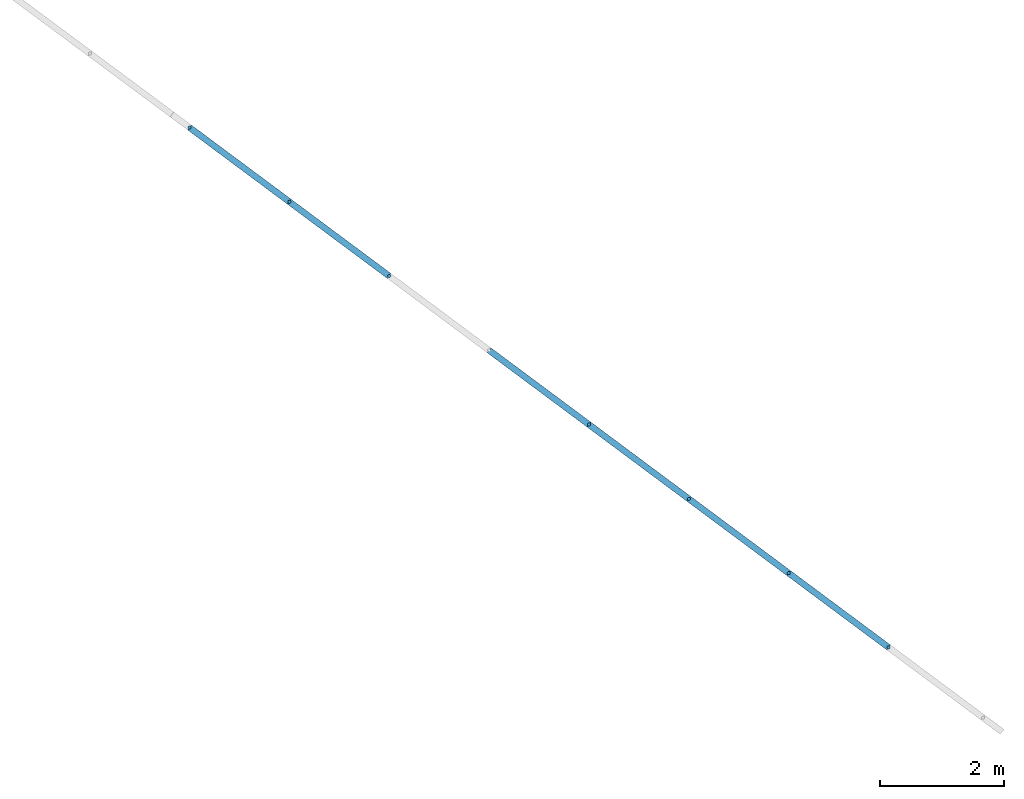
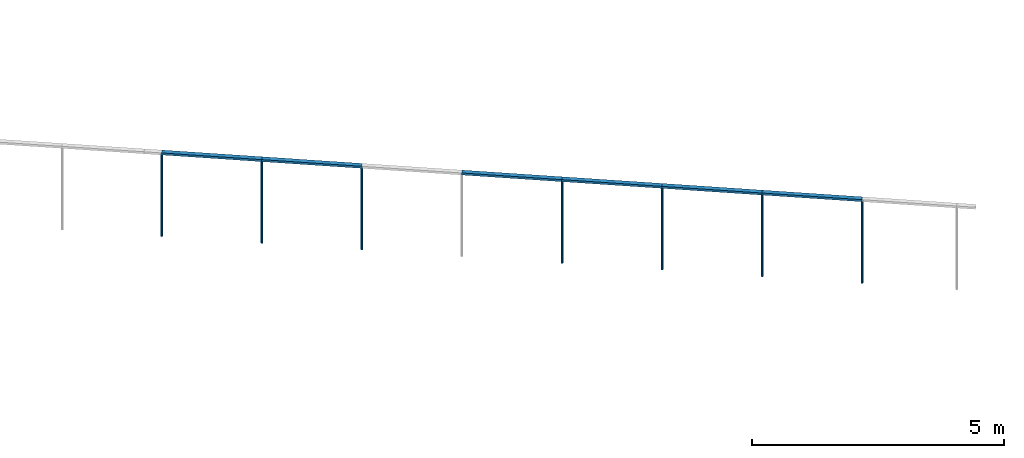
# One storey, part 2 of 12: 13 members, 1 element without a shape of its own.
"""IFC2X3 building model written with IfcOpenShell, lengths in metres."""

from ifc_helpers import new_model, entity, si_unit, converted_unit, derived_unit, direction, frame, frame_2d, origin, origin_2d_with_axis, place, context, subcontext, project, spatial, rectangle, circle, extrude, source, transform, mapped, material, type_object, type_shapes, element, aggregate, save


model = new_model("IFC2X3")

# Units and contexts
model_context = context("Model", 3, precision=1e-05, world=origin(), true_north=direction((6.123031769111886e-17, 1.0)))
body_context = subcontext(model_context, "Body", "Model", "MODEL_VIEW")
ifc_project = project(units=[si_unit("LENGTHUNIT", "METRE"), si_unit("AREAUNIT", "SQUARE_METRE"), si_unit("VOLUMEUNIT", "CUBIC_METRE"), converted_unit("PLANEANGLEUNIT", "DEGREE", entity("IfcRatioMeasure", 0.017453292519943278), si_unit("PLANEANGLEUNIT", "RADIAN"), dimensions=[0, 0, 0, 0, 0, 0, 0]), si_unit("MASSUNIT", "GRAM", prefix="KILO"), derived_unit("MASSDENSITYUNIT", [(si_unit("MASSUNIT", "GRAM", prefix="KILO"), 1), (si_unit("LENGTHUNIT", "METRE"), -3)]), derived_unit("IONCONCENTRATIONUNIT", [(si_unit("MASSUNIT", "GRAM", prefix="KILO"), 1), (si_unit("LENGTHUNIT", "METRE"), -3)]), derived_unit("MOMENTOFINERTIAUNIT", [(si_unit("LENGTHUNIT", "METRE"), 4)]), si_unit("TIMEUNIT", "SECOND"), si_unit("FREQUENCYUNIT", "HERTZ"), si_unit("THERMODYNAMICTEMPERATUREUNIT", "DEGREE_CELSIUS"), derived_unit("THERMALTRANSMITTANCEUNIT", [(si_unit("MASSUNIT", "GRAM", prefix="KILO"), 1), (si_unit("THERMODYNAMICTEMPERATUREUNIT", "KELVIN"), -1), (si_unit("TIMEUNIT", "SECOND"), -3)]), derived_unit("THERMALCONDUCTANCEUNIT", [(si_unit("MASSUNIT", "GRAM", prefix="KILO"), 1), (si_unit("THERMODYNAMICTEMPERATUREUNIT", "KELVIN"), -1), (si_unit("TIMEUNIT", "SECOND"), -3), (si_unit("LENGTHUNIT", "METRE"), 1)]), derived_unit("VOLUMETRICFLOWRATEUNIT", [(si_unit("LENGTHUNIT", "METRE"), 3), (si_unit("TIMEUNIT", "SECOND"), -1)]), derived_unit("MASSFLOWRATEUNIT", [(si_unit("MASSUNIT", "GRAM", prefix="KILO"), 1), (si_unit("TIMEUNIT", "SECOND"), -1)]), derived_unit("ROTATIONALFREQUENCYUNIT", [(si_unit("TIMEUNIT", "SECOND"), -1)]), si_unit("ELECTRICCURRENTUNIT", "AMPERE"), si_unit("ELECTRICVOLTAGEUNIT", "VOLT"), si_unit("POWERUNIT", "WATT"), si_unit("FORCEUNIT", "NEWTON", prefix="KILO"), si_unit("ILLUMINANCEUNIT", "LUX"), si_unit("LUMINOUSFLUXUNIT", "LUMEN"), si_unit("LUMINOUSINTENSITYUNIT", "CANDELA"), derived_unit("USERDEFINED", [(si_unit("MASSUNIT", "GRAM", prefix="KILO"), -1), (si_unit("LENGTHUNIT", "METRE"), -2), (si_unit("TIMEUNIT", "SECOND"), 3), (si_unit("LUMINOUSFLUXUNIT", "LUMEN"), 1)]), derived_unit("USERDEFINED", [(si_unit("MASSUNIT", "GRAM", prefix="KILO"), 1), (si_unit("TIMEUNIT", "SECOND"), -3), (si_unit("LENGTHUNIT", "METRE"), 3), (si_unit("ELECTRICCURRENTUNIT", "AMPERE"), -2)]), derived_unit("SOUNDPOWERUNIT", [(si_unit("MASSUNIT", "GRAM", prefix="KILO"), 1), (si_unit("TIMEUNIT", "SECOND"), -3), (si_unit("LENGTHUNIT", "METRE"), 2)]), derived_unit("SOUNDPRESSUREUNIT", [(si_unit("MASSUNIT", "GRAM", prefix="KILO"), 1), (si_unit("LENGTHUNIT", "METRE"), -1), (si_unit("TIMEUNIT", "SECOND"), -2)]), derived_unit("LINEARVELOCITYUNIT", [(si_unit("LENGTHUNIT", "METRE"), 1), (si_unit("TIMEUNIT", "SECOND"), -1)]), si_unit("PRESSUREUNIT", "PASCAL"), derived_unit("USERDEFINED", [(si_unit("MASSUNIT", "GRAM", prefix="KILO"), 1), (si_unit("LENGTHUNIT", "METRE"), -2), (si_unit("TIMEUNIT", "SECOND"), -2)]), derived_unit("LINEARFORCEUNIT", [(si_unit("MASSUNIT", "GRAM", prefix="KILO"), 1), (si_unit("TIMEUNIT", "SECOND"), -2)]), derived_unit("PLANARFORCEUNIT", [(si_unit("MASSUNIT", "GRAM", prefix="KILO"), 1), (si_unit("LENGTHUNIT", "METRE"), -1), (si_unit("TIMEUNIT", "SECOND"), -2)]), derived_unit("SPECIFICHEATCAPACITYUNIT", [(si_unit("THERMODYNAMICTEMPERATUREUNIT", "KELVIN"), -1), (si_unit("LENGTHUNIT", "METRE"), 2), (si_unit("TIMEUNIT", "SECOND"), -2)]), derived_unit("HEATINGVALUEUNIT", [(si_unit("LENGTHUNIT", "METRE"), 2), (si_unit("TIMEUNIT", "SECOND"), -2)]), derived_unit("VAPORPERMEABILITYUNIT", [(si_unit("LENGTHUNIT", "METRE"), -1), (si_unit("TIMEUNIT", "SECOND"), 1)]), derived_unit("DYNAMICVISCOSITYUNIT", [(si_unit("MASSUNIT", "GRAM", prefix="KILO"), 1), (si_unit("TIMEUNIT", "SECOND"), -1), (si_unit("LENGTHUNIT", "METRE"), -1)]), derived_unit("THERMALEXPANSIONCOEFFICIENTUNIT", [(si_unit("THERMODYNAMICTEMPERATUREUNIT", "KELVIN"), -1)]), derived_unit("MODULUSOFELASTICITYUNIT", [(si_unit("MASSUNIT", "GRAM", prefix="KILO"), 1), (si_unit("LENGTHUNIT", "METRE"), -1), (si_unit("TIMEUNIT", "SECOND"), -2)]), derived_unit("ISOTHERMALMOISTURECAPACITYUNIT", [(si_unit("LENGTHUNIT", "METRE"), 3), (si_unit("MASSUNIT", "GRAM", prefix="KILO"), -1)]), derived_unit("MOISTUREDIFFUSIVITYUNIT", [(si_unit("TIMEUNIT", "SECOND"), -1), (si_unit("LENGTHUNIT", "METRE"), 2)])], contexts=[model_context])

# Site, building, storey
site_placement = place(None, origin())
site = spatial("IfcSite", under=ifc_project, at=site_placement, Name="Superficie", CompositionType="ELEMENT")
building_placement = place(site_placement, frame((0.0, 0.0, 235.0), z_axis=(0.0, 0.0, 1.0), x_axis=(-0.7996477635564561, 0.6004693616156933, 0.0)))
building = spatial("IfcBuilding", under=site, at=building_placement, CompositionType="ELEMENT")
storey_placement = place(building_placement, frame((0.0, 0.0, -4.459999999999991)))
storey = spatial("IfcBuildingStorey", under=building, at=storey_placement, Name="PS1- Vestuari", CompositionType="ELEMENT", Elevation=-4.459999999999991)

# Curtain wall, members
curtain_wall_type = type_object("IfcCurtainWallType", Name="Muro cortina:SER EXT- Tanca exterior", PredefinedType="NOTDEFINED")
curtain_wall_placement = place(storey_placement, frame((0.0, 0.0, 4.459999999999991)))
curtain_wall = element("IfcCurtainWall", 1, at=curtain_wall_placement, inside=storey, type_object=curtain_wall_type, Name="Muro cortina:SER EXT- Tanca exterior", ObjectType="Muro cortina:SER EXT- Tanca exterior")
ifc_material_1 = material(Name="Acero inoxidable")
member_type_1 = type_object("IfcMemberType", Name="Montante circular:Perfil Tanca exterior", PredefinedType="MULLION", material=ifc_material_1)
shared_shape_1 = source(origin(), body_context, "Body", "SweptSolid", [
    extrude(circle(Radius=0.025, at=frame_2d((-2.1149748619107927e-18, -4.0388614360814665e-17), x_axis=(1.0, 0.0))), frame((0.0, 0.0, -2.0), z_axis=(0.0, 0.0, 1.0), x_axis=(-1.0, 0.0, 0.0)), (0.0, 0.0, 1.0), 1.9999999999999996),
])
type_shapes(member_type_1, [shared_shape_1])
member_1_placement = place(curtain_wall_placement, frame((23.910364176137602, -66.6421102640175, -5.509999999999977), z_axis=(0.0, 0.0, -1.0), x_axis=(-0.9999891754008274, -0.004652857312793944, 0.0)))
member_1 = element("IfcMember", 2, at=member_1_placement, type_object=member_type_1, material=ifc_material_1, Name="Montante circular:Perfil Tanca exterior", ObjectType="Montante circular:Perfil Tanca exterior", context=body_context, shape_type="MappedRepresentation", body=[
    mapped(shared_shape_1, transform((0.0, 0.0, 0.0), scale=1.0)),
])
member_2_placement = place(curtain_wall_placement, frame((21.910385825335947, -66.65141597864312, -5.509999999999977), z_axis=(0.0, 0.0, -1.0), x_axis=(-0.9999891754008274, -0.004652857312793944, 0.0)))
member_2 = element("IfcMember", 3, at=member_2_placement, type_object=member_type_1, material=ifc_material_1, Name="Montante circular:Perfil Tanca exterior", ObjectType="Montante circular:Perfil Tanca exterior", context=body_context, shape_type="MappedRepresentation", body=[
    mapped(shared_shape_1, transform((0.0, 0.0, 0.0), scale=1.0)),
])
member_3_placement = place(curtain_wall_placement, frame((19.910407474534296, -66.66072169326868, -5.509999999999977), z_axis=(0.0, 0.0, -1.0), x_axis=(-0.9999891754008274, -0.004652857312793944, 0.0)))
member_3 = element("IfcMember", 4, at=member_3_placement, type_object=member_type_1, material=ifc_material_1, Name="Montante circular:Perfil Tanca exterior", ObjectType="Montante circular:Perfil Tanca exterior", context=body_context, shape_type="MappedRepresentation", body=[
    mapped(shared_shape_1, transform((0.0, 0.0, 0.0), scale=1.0)),
])
member_4_placement = place(curtain_wall_placement, frame((15.91045077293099, -66.67933312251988, -5.509999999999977), z_axis=(0.0, 0.0, -1.0), x_axis=(-0.9999891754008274, -0.004652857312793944, 0.0)))
member_4 = element("IfcMember", 5, at=member_4_placement, type_object=member_type_1, material=ifc_material_1, Name="Montante circular:Perfil Tanca exterior", ObjectType="Montante circular:Perfil Tanca exterior", context=body_context, shape_type="MappedRepresentation", body=[
    mapped(shared_shape_1, transform((0.0, 0.0, 0.0), scale=1.0)),
])
member_5_placement = place(curtain_wall_placement, frame((13.910472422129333, -66.68863883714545, -5.509999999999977), z_axis=(0.0, 0.0, -1.0), x_axis=(-0.9999891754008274, -0.004652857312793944, 0.0)))
member_5 = element("IfcMember", 6, at=member_5_placement, type_object=member_type_1, material=ifc_material_1, Name="Montante circular:Perfil Tanca exterior", ObjectType="Montante circular:Perfil Tanca exterior", context=body_context, shape_type="MappedRepresentation", body=[
    mapped(shared_shape_1, transform((0.0, 0.0, 0.0), scale=1.0)),
])
member_6_placement = place(curtain_wall_placement, frame((11.910494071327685, -66.69794455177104, -5.509999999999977), z_axis=(0.0, 0.0, -1.0), x_axis=(-0.9999891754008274, -0.004652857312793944, 0.0)))
member_6 = element("IfcMember", 7, at=member_6_placement, type_object=member_type_1, material=ifc_material_1, Name="Montante circular:Perfil Tanca exterior", ObjectType="Montante circular:Perfil Tanca exterior", context=body_context, shape_type="MappedRepresentation", body=[
    mapped(shared_shape_1, transform((0.0, 0.0, 0.0), scale=1.0)),
])
member_7_placement = place(curtain_wall_placement, frame((9.910515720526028, -66.70725026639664, -5.509999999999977), z_axis=(0.0, 0.0, -1.0), x_axis=(-0.9999891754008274, -0.004652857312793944, 0.0)))
member_7 = element("IfcMember", 8, at=member_7_placement, type_object=member_type_1, material=ifc_material_1, Name="Montante circular:Perfil Tanca exterior", ObjectType="Montante circular:Perfil Tanca exterior", context=body_context, shape_type="MappedRepresentation", body=[
    mapped(shared_shape_1, transform((0.0, 0.0, 0.0), scale=1.0)),
])
ifc_material_2 = material(Name="_Formigó- Solera- T1- STR")
member_type_2 = type_object("IfcMemberType", Name="Montante rectangular:Montante rectangular 100x50", PredefinedType="MULLION", material=ifc_material_2)
shared_shape_2 = source(origin(), body_context, "Body", "SweptSolid", [
    extrude(rectangle(XDim=0.1, YDim=0.05000000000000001, at=origin_2d_with_axis()), frame((-0.025000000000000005, 0.0, -2.0), z_axis=(0.0, 0.0, 1.0), x_axis=(0.0, -1.0, 0.0)), (0.0, 0.0, 1.0), 2.0000000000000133),
])
type_shapes(member_type_2, [shared_shape_2])
member_8_placement = place(curtain_wall_placement, frame((21.910385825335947, -66.6514159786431, -3.459999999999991), z_axis=(-0.9999891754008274, -0.004652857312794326, 0.0), x_axis=(0.0, 0.0, 1.0)))
member_8 = element("IfcMember", 9, at=member_8_placement, type_object=member_type_2, material=ifc_material_2, Name="Montante rectangular:Montante rectangular 100x50", ObjectType="Montante rectangular:Montante rectangular 100x50", context=body_context, shape_type="MappedRepresentation", body=[
    mapped(shared_shape_2, transform((0.0, 0.0, 0.0), scale=1.0)),
])
member_9_placement = place(curtain_wall_placement, frame((19.910407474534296, -66.6607216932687, -3.459999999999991), z_axis=(-0.9999891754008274, -0.004652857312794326, 0.0), x_axis=(0.0, 0.0, 1.0)))
member_9 = element("IfcMember", 10, at=member_9_placement, type_object=member_type_2, material=ifc_material_2, Name="Montante rectangular:Montante rectangular 100x50", ObjectType="Montante rectangular:Montante rectangular 100x50", context=body_context, shape_type="MappedRepresentation", body=[
    mapped(shared_shape_2, transform((0.0, 0.0, 0.0), scale=1.0)),
])
member_10_placement = place(curtain_wall_placement, frame((15.91045077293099, -66.67933312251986, -3.459999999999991), z_axis=(-0.9999891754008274, -0.004652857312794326, 0.0), x_axis=(0.0, 0.0, 1.0)))
member_10 = element("IfcMember", 11, at=member_10_placement, type_object=member_type_2, material=ifc_material_2, Name="Montante rectangular:Montante rectangular 100x50", ObjectType="Montante rectangular:Montante rectangular 100x50", context=body_context, shape_type="MappedRepresentation", body=[
    mapped(shared_shape_2, transform((0.0, 0.0, 0.0), scale=1.0)),
])
member_11_placement = place(curtain_wall_placement, frame((13.910472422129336, -66.68863883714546, -3.459999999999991), z_axis=(-0.9999891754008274, -0.004652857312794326, 0.0), x_axis=(0.0, 0.0, 1.0)))
member_11 = element("IfcMember", 12, at=member_11_placement, type_object=member_type_2, material=ifc_material_2, Name="Montante rectangular:Montante rectangular 100x50", ObjectType="Montante rectangular:Montante rectangular 100x50", context=body_context, shape_type="MappedRepresentation", body=[
    mapped(shared_shape_2, transform((0.0, 0.0, 0.0), scale=1.0)),
])
member_12_placement = place(curtain_wall_placement, frame((11.910494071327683, -66.69794455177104, -3.459999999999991), z_axis=(-0.9999891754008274, -0.004652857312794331, 0.0), x_axis=(0.0, 0.0, 1.0)))
member_12 = element("IfcMember", 13, at=member_12_placement, type_object=member_type_2, material=ifc_material_2, Name="Montante rectangular:Montante rectangular 100x50", ObjectType="Montante rectangular:Montante rectangular 100x50", context=body_context, shape_type="MappedRepresentation", body=[
    mapped(shared_shape_2, transform((0.0, 0.0, 0.0), scale=1.0)),
])
member_13_placement = place(curtain_wall_placement, frame((9.910515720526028, -66.70725026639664, -3.459999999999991), z_axis=(-0.9999891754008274, -0.004652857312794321, 0.0), x_axis=(0.0, 0.0, 1.0)))
member_13 = element("IfcMember", 14, at=member_13_placement, type_object=member_type_2, material=ifc_material_2, Name="Montante rectangular:Montante rectangular 100x50", ObjectType="Montante rectangular:Montante rectangular 100x50", context=body_context, shape_type="MappedRepresentation", body=[
    mapped(shared_shape_2, transform((0.0, 0.0, 0.0), scale=1.0)),
])
aggregate(curtain_wall, [member_1, member_2, member_3, member_4, member_5, member_6, member_7, member_8, member_9, member_10, member_11, member_12, member_13])

save(model, "model.ifc")
